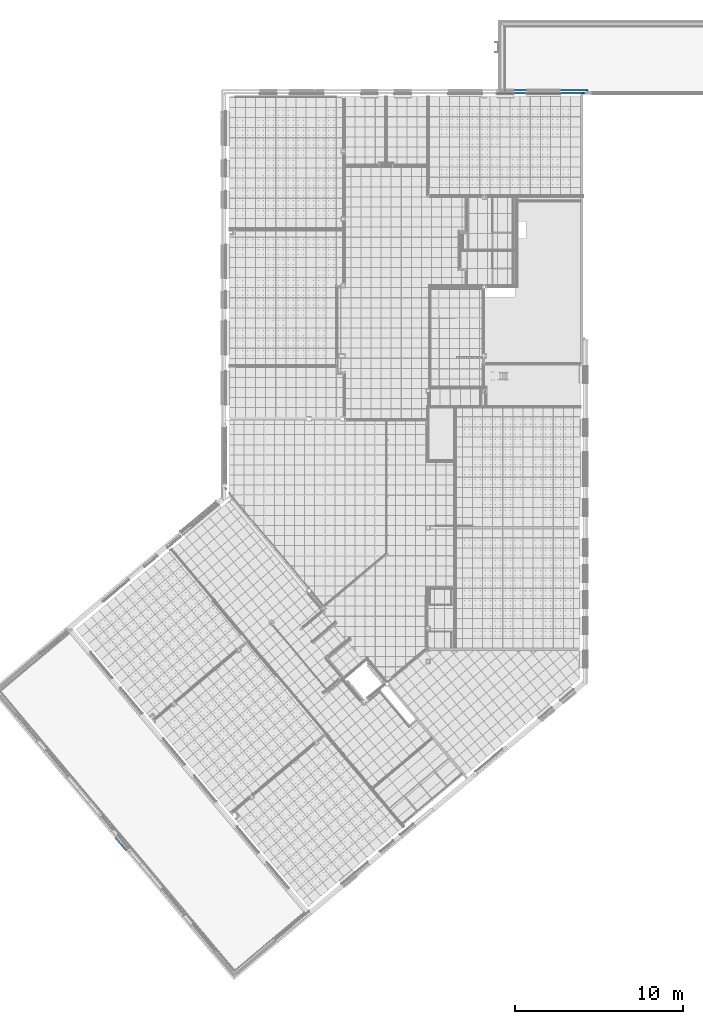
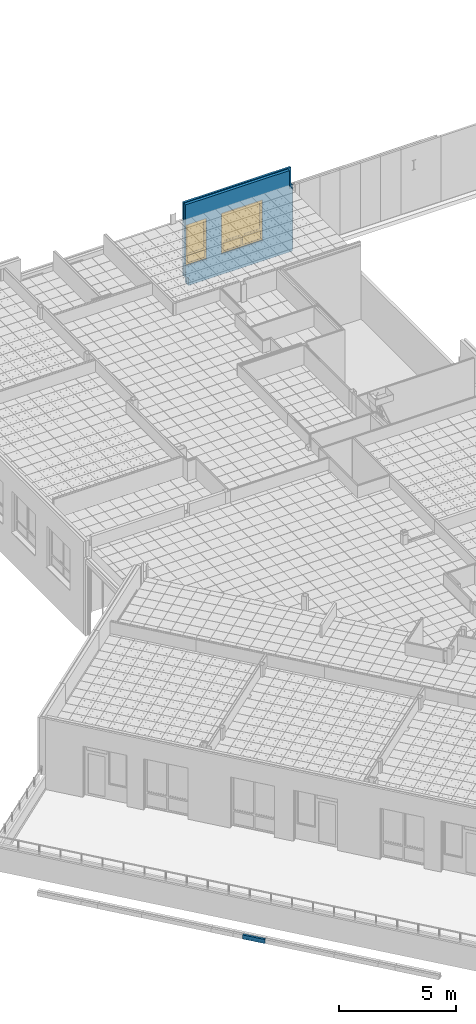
# One storey, part 47 of 321: 4 building element parts, 2 windows, 2 openings, 2 elements without a shape of their own.
"""IFC2X3 building model written with IfcOpenShell, lengths in millimetres."""

import ifcopenshell
import ifcopenshell.guid

model = None  # the IFC model being written
_history = None  # IfcOwnerHistory: only IFC2X3 demands one
_inside = {}  # id of a spatial element -> (the spatial element, [elements in it])
_under = {}  # id of a project, library or spatial element -> (it, [spatial elements below it])
_declared = {}  # id of a project -> (the project, [libraries it declares])
_typed = {}  # id of a type object -> (the type object, [elements of that type])
_made_of = {}  # id of a material, layer set ... -> (it, [elements and type objects made of it])


def new_model(schema):
    """Start an empty IFC model of exactly this schema.

    Asked for "IFC4X3", IfcOpenShell would pick the latest addendum, in which some entities
    have other attributes; the version numbers below select the first issue.
    IFC2X3 requires an IfcOwnerHistory on every rooted entity: one is made here for all.
    """
    global model, _history
    if schema == "IFC4X3":
        model = ifcopenshell.file(schema_version=(4, 3, 0, 0))
    else:
        model = ifcopenshell.file(schema=schema)
    _inside.clear()
    _under.clear()
    _declared.clear()
    _typed.clear()
    _made_of.clear()
    _history = None
    if model.schema == "IFC2X3":
        org = make("IfcOrganization", Name="unknown")
        user = make(
            "IfcPersonAndOrganization",
            ThePerson=make("IfcPerson", FamilyName="unknown"),
            TheOrganization=org,
        )
        app = make(
            "IfcApplication",
            ApplicationDeveloper=org,
            Version="unknown",
            ApplicationFullName="unknown",
            ApplicationIdentifier="unknown",
        )
        _history = make(
            "IfcOwnerHistory",
            OwningUser=user,
            OwningApplication=app,
            ChangeAction="ADDED",
            CreationDate=0,
        )
    return model


def make(cls, **values):
    """One entity of the class cls with the attributes given. An attribute that is None is left unset."""
    return model.create_entity(
        cls, **{name: value for name, value in values.items() if value is not None}
    )


def entity(cls, *values):
    """Any entity or typed value of the class cls, its attributes in the order of the schema. None: left unset."""
    e = model.create_entity(cls)
    for i, value in enumerate(values):
        if value is not None:
            e[i] = value
    return e


def rooted(cls, **values):
    """An entity with a GlobalId (a new one), such as an element, a storey or a relation."""
    return make(cls, GlobalId=ifcopenshell.guid.new(), OwnerHistory=_history, **values)


def si_unit(unit_type, name, prefix=None):
    """IfcSIUnit, for example si_unit("LENGTHUNIT", "METRE", prefix="MILLI")."""
    return make("IfcSIUnit", UnitType=unit_type, Prefix=prefix, Name=name)


def converted_unit(unit_type, name, factor, base, dimensions=None, offset=None):
    """IfcConversionBasedUnit, such as the inch: factor (a typed value) times the base unit."""
    return make(
        "IfcConversionBasedUnit"
        if offset is None
        else "IfcConversionBasedUnitWithOffset",
        ConversionOffset=offset,
        Dimensions=None
        if dimensions is None
        else entity("IfcDimensionalExponents", *dimensions),
        UnitType=unit_type,
        Name=name,
        ConversionFactor=make(
            "IfcMeasureWithUnit", ValueComponent=factor, UnitComponent=base
        ),
    )


def derived_unit(unit_type, elements):
    """IfcDerivedUnit: a product of units, each with its exponent."""
    return make(
        "IfcDerivedUnit",
        Elements=[
            make("IfcDerivedUnitElement", Unit=unit, Exponent=power)
            for unit, power in elements
        ],
        UnitType=unit_type,
    )


def money_unit(currency):
    """IfcMonetaryUnit."""
    return make("IfcMonetaryUnit", Currency=currency)


def assignment(units):
    """IfcUnitAssignment: the units of a project."""
    return None if units is None else make("IfcUnitAssignment", Units=units)


def point(xyz):
    """IfcCartesianPoint."""
    return None if xyz is None else make("IfcCartesianPoint", Coordinates=xyz)


def direction(xyz):
    """IfcDirection."""
    return None if xyz is None else make("IfcDirection", DirectionRatios=xyz)


def frame(location, z_axis=None, x_axis=None):
    """IfcAxis2Placement3D, a coordinate frame: its origin and axes. An axis left out is left unset."""
    return make(
        "IfcAxis2Placement3D",
        Location=point(location),
        Axis=direction(z_axis),
        RefDirection=direction(x_axis),
    )


def origin_with_axes():
    """The frame at (0, 0, 0) with the z axis (0, 0, 1) and the x axis (1, 0, 0) written out."""
    return frame((0.0, 0.0, 0.0), z_axis=(0.0, 0.0, 1.0), x_axis=(1.0, 0.0, 0.0))


def place(relative_to, where):
    """IfcLocalPlacement: puts the frame where relative to a parent placement (None: the world)."""
    return make(
        "IfcLocalPlacement", PlacementRelTo=relative_to, RelativePlacement=where
    )


def context(
    kind, dimensions, precision=None, world=None, true_north=None, identifier=None
):
    """IfcGeometricRepresentationContext, for example the 3D "Model" context."""
    return make(
        "IfcGeometricRepresentationContext",
        ContextIdentifier=identifier,
        ContextType=kind,
        CoordinateSpaceDimension=dimensions,
        Precision=precision,
        WorldCoordinateSystem=world,
        TrueNorth=true_north,
    )


def subcontext(parent, identifier, kind, view, scale=None):
    """IfcGeometricRepresentationSubContext, for example "Body" below "Model"."""
    return make(
        "IfcGeometricRepresentationSubContext",
        ContextIdentifier=identifier,
        ContextType=kind,
        ParentContext=parent,
        TargetScale=scale,
        TargetView=view,
    )


def project(units=None, contexts=None):
    """IfcProject with its units and contexts."""
    return rooted(
        "IfcProject",
        Name="project",
        RepresentationContexts=contexts,
        UnitsInContext=assignment(units),
    )


def spatial(cls, under=None, at=None, **own):
    """A site, building, storey or space (cls), placed at a placement, below another one or the project."""
    s = rooted(cls, ObjectPlacement=at, **own)
    if under is not None:
        _under.setdefault(under.id(), (under, []))[1].append(s)
    return s


def faces_of(points, faces, orient=None, outer=None):
    """IfcFace entities. A face is a list of loops; a loop is a list of indices into points, from 0.

    orient and outer hold one flag for each loop. By default every Orientation is true, the
    first loop of a face is its IfcFaceOuterBound and the others are IfcFaceBound.
    """
    made = []
    for i, loops in enumerate(faces):
        bounds = []
        for j, loop in enumerate(loops):
            is_outer = j == 0 if outer is None else outer[i][j]
            bounds.append(
                make(
                    "IfcFaceOuterBound" if is_outer else "IfcFaceBound",
                    Bound=make("IfcPolyLoop", Polygon=[points[k] for k in loop]),
                    Orientation=True if orient is None else orient[i][j],
                )
            )
        made.append(make("IfcFace", Bounds=bounds))
    return made


def open_shell(faces, orient=None, outer=None):
    """The faces of one IfcOpenShell. surface_model builds it on its shared points."""
    return ("IfcOpenShell", faces, orient, outer)


def faceted_brep(points, faces, orient=None, outer=None, voids=None):
    """IfcFacetedBrep: a solid bounded by flat faces; with voids (closed shells), ...WithVoids."""
    shared = [point(p) for p in points]
    hull = make("IfcClosedShell", CfsFaces=faces_of(shared, faces, orient, outer))
    if voids is None:
        return make("IfcFacetedBrep", Outer=hull)
    return make(
        "IfcFacetedBrepWithVoids",
        Outer=hull,
        Voids=[
            make(cls, CfsFaces=faces_of(shared, fs, o, b)) for cls, fs, o, b in voids
        ],
    )


def surface_model(cls, points, shells):
    """IfcFaceBasedSurfaceModel or IfcShellBasedSurfaceModel (cls): surfaces that need not close."""
    shared = [point(p) for p in points]
    made = [make(c, CfsFaces=faces_of(shared, fs, o, b)) for c, fs, o, b in shells]
    if cls == "IfcFaceBasedSurfaceModel":
        return make(cls, FbsmFaces=made)
    return make(cls, SbsmBoundary=made)


def shape(context_of_items, identifier, shape_type, items):
    """IfcShapeRepresentation: the items that make up one representation, for example the "Body"."""
    return make(
        "IfcShapeRepresentation",
        ContextOfItems=context_of_items,
        RepresentationIdentifier=identifier,
        RepresentationType=shape_type,
        Items=items,
    )


def source(mapping_origin, context_of_items, identifier, shape_type, items):
    """IfcRepresentationMap: a shape defined once, which mapped items show again and again."""
    return make(
        "IfcRepresentationMap",
        MappingOrigin=mapping_origin,
        MappedRepresentation=shape(context_of_items, identifier, shape_type, items),
    )


def transform(
    local_origin,
    x_axis=None,
    y_axis=None,
    z_axis=None,
    scale=None,
    scale2=None,
    scale3=None,
    uniform=True,
):
    """IfcCartesianTransformationOperator3D, or its non-uniform kind. x_axis, y_axis, z_axis: its Axis1, 2, 3."""
    if uniform:
        return make(
            "IfcCartesianTransformationOperator3D",
            Axis1=direction(x_axis),
            Axis2=direction(y_axis),
            LocalOrigin=point(local_origin),
            Scale=scale,
            Axis3=direction(z_axis),
        )
    return make(
        "IfcCartesianTransformationOperator3DnonUniform",
        Axis1=direction(x_axis),
        Axis2=direction(y_axis),
        LocalOrigin=point(local_origin),
        Scale=scale,
        Axis3=direction(z_axis),
        Scale2=scale2,
        Scale3=scale3,
    )


def mapped(mapping_source, mapping_target):
    """IfcMappedItem: shows the shape of a source again, moved by a transform."""
    return make(
        "IfcMappedItem", MappingSource=mapping_source, MappingTarget=mapping_target
    )


def material(Name=None, Category=None):
    """IfcMaterial."""
    return make("IfcMaterial", Name=Name, Category=Category)


def made_of(thing, what):
    """Note that an element or type object is made of a material, layer set ...; save() writes the relation."""
    if what is not None:
        _made_of.setdefault(what.id(), (what, []))[1].append(thing)
    return thing


def type_object(cls, material=None, **own):
    """A type object (cls), such as IfcWallType, which elements share."""
    return made_of(rooted(cls, **own), material)


def type_shapes(of_type, sources):
    """Give a type object the sources (RepresentationMaps) that its elements show as mapped items."""
    of_type.RepresentationMaps = sources


def element(
    cls,
    number,
    at=None,
    inside=None,
    cuts=None,
    type_object=None,
    material=None,
    context=None,
    identifier="Body",
    shape_type=None,
    held_by="IfcProductDefinitionShape",
    body=None,
    shapes=None,
    **own,
):
    """One element of the class cls, such as IfcWall. Its Tag is "e" and its number.

    at: its placement. inside: the storey or other place that contains it. cuts: it is an
    opening in that element (IfcRelVoidsElement). A single representation is given by context,
    identifier, shape_type and body (its items); several are given by shapes. held_by: the class
    of the entity that holds the representations. save() writes the other relations.
    """
    e = rooted(cls, Tag="e%d" % number, ObjectPlacement=at, **own)
    if body is not None:
        shapes = [shape(context, identifier, shape_type, body)]
    if shapes is not None:
        e.Representation = make(held_by, Representations=shapes)
    if inside is not None:
        _inside.setdefault(inside.id(), (inside, []))[1].append(e)
    if cuts is not None:
        rooted(
            "IfcRelVoidsElement", RelatingBuildingElement=cuts, RelatedOpeningElement=e
        )
    if type_object is not None:
        _typed.setdefault(type_object.id(), (type_object, []))[1].append(e)
    return made_of(e, material)


def fill(opening, filler):
    """IfcRelFillsElement: the door or window that sits in an opening."""
    return rooted(
        "IfcRelFillsElement",
        RelatingOpeningElement=opening,
        RelatedBuildingElement=filler,
    )


def aggregate(whole, parts):
    """IfcRelAggregates: a whole, such as a stair, and the parts it consists of."""
    return rooted("IfcRelAggregates", RelatingObject=whole, RelatedObjects=parts)


def save(model, path):
    """Write the relations noted so far, then the file.

    IfcRelAggregates (storeys below a building ...), IfcRelContainedInSpatialStructure (elements
    in a storey), IfcRelDefinesByType, IfcRelAssociatesMaterial and IfcRelDeclares: one each for
    every whole, place, type object, material and project.
    """
    for whole, parts in _under.values():
        aggregate(whole, parts)
    for where, things in _inside.values():
        rooted(
            "IfcRelContainedInSpatialStructure",
            RelatedElements=things,
            RelatingStructure=where,
        )
    for kind, things in _typed.values():
        rooted("IfcRelDefinesByType", RelatedObjects=things, RelatingType=kind)
    for what, things in _made_of.values():
        rooted("IfcRelAssociatesMaterial", RelatedObjects=things, RelatingMaterial=what)
    for by, libraries in _declared.values():
        rooted("IfcRelDeclares", RelatingContext=by, RelatedDefinitions=libraries)
    model.write(path)


model = new_model("IFC2X3")

# Units and contexts
model_context = context("Model", 3, precision=0.01, world=origin_with_axes(), true_north=direction((0.0, 1.0)))
plan_context = context("Plan", 3, precision=0.01, world=origin_with_axes(), true_north=direction((0.0, 1.0)))
body_context = subcontext(model_context, "Body", "Model", "MODEL_VIEW")
ifc_project = project(units=[si_unit("LENGTHUNIT", "METRE", prefix="MILLI"), si_unit("AREAUNIT", "SQUARE_METRE"), si_unit("VOLUMEUNIT", "CUBIC_METRE"), converted_unit("PLANEANGLEUNIT", "DEGREE", entity("IfcPlaneAngleMeasure", 0.0174532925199), si_unit("PLANEANGLEUNIT", "RADIAN"), dimensions=[0, 0, 0, 0, 0, 0, 0]), money_unit("EUR"), converted_unit("TIMEUNIT", "Year", entity("IfcTimeMeasure", 31556926.0), si_unit("TIMEUNIT", "SECOND"), dimensions=[0, 0, 1, 0, 0, 0, 0]), si_unit("MASSUNIT", "GRAM", prefix="KILO"), si_unit("THERMODYNAMICTEMPERATUREUNIT", "DEGREE_CELSIUS"), si_unit("LUMINOUSINTENSITYUNIT", "LUMEN"), si_unit("ENERGYUNIT", "JOULE", prefix="MEGA"), derived_unit("THERMALCONDUCTANCEUNIT", [(si_unit("POWERUNIT", "WATT"), 1), (si_unit("LENGTHUNIT", "METRE"), -1), (si_unit("THERMODYNAMICTEMPERATUREUNIT", "KELVIN"), -1)]), derived_unit("SPECIFICHEATCAPACITYUNIT", [(si_unit("ENERGYUNIT", "JOULE"), 1), (si_unit("MASSUNIT", "GRAM", prefix="KILO"), -1), (si_unit("THERMODYNAMICTEMPERATUREUNIT", "KELVIN"), -1)]), derived_unit("MASSDENSITYUNIT", [(si_unit("MASSUNIT", "GRAM", prefix="KILO"), 1), (si_unit("VOLUMEUNIT", "CUBIC_METRE"), -1)])], contexts=[model_context, plan_context])

# Site, building, storey
site_placement = place(None, origin_with_axes())
site = spatial("IfcSite", under=ifc_project, at=site_placement, Name="Fortuinstraat Woensdrecht", CompositionType="ELEMENT")
building_placement = place(site_placement, origin_with_axes())
building = spatial("IfcBuilding", under=site, at=building_placement, Name="IKC Fortuna", CompositionType="ELEMENT")
storey_placement = place(building_placement, frame((0.0, 0.0, 4000.0), z_axis=(0.0, 0.0, 1.0), x_axis=(1.0, 0.0, 0.0)))
storey = spatial("IfcBuildingStorey", under=building, at=storey_placement, Name="01 eerste verdieping", CompositionType="ELEMENT", Elevation=4000.0)

# Window
window_style_1 = type_object("IfcWindowStyle", Name="R1 25", ConstructionType="NOTDEFINED", OperationType="DOUBLE_PANEL_HORIZONTAL", ParameterTakesPrecedence=False, Sizeable=False)
shared_shape_1 = source(origin_with_axes(), body_context, "Body", "SurfaceModel", [
    faceted_brep([(457.0, 0.0, 2016.50001132), (457.0, -36.0, 2016.50001132), (429.0, -36.0, 2016.50001132), (429.0, -62.0, 2016.50001132), (497.0, -62.0, 2016.50001132), (497.0, 0.0, 2016.50001132), (457.0, 0.0, 506.0), (457.0, -36.0, 506.0), (429.0, -36.0, 534.0), (429.0, -36.0, 506.0), (429.0, -62.0, 534.0), (429.0, -62.0, 466.0), (429.0, -62.0, 68.0), (497.0, -62.0, 68.0), (497.0, 0.0, 68.0), (429.0, 0.0, 68.0), (429.0, 0.0, 466.0), (429.0, 0.0, 506.0)], [[[0, 1, 2, 3, 4, 5]], [[1, 0, 6, 7]], [[8, 2, 1, 7, 9]], [[2, 8, 10, 3]], [[10, 11, 12, 13, 4, 3]], [[5, 4, 13, 14]], [[6, 0, 5, 14, 15, 16, 17]], [[6, 17, 9, 7]], [[9, 17, 16, 11, 10, 8]], [[15, 12, 11, 16]], [[14, 13, 12, 15]]]),
    faceted_brep([(-429.0, -36.0, 2016.50001132), (-457.0, -36.0, 2016.50001132), (-457.0, 0.0, 2016.50001132), (-497.0, 0.0, 2016.50001132), (-497.0, -62.0, 2016.50001132), (-429.0, -62.0, 2016.50001132), (-429.0, -36.0, 534.0), (-429.0, -36.0, 506.0), (-457.0, -36.0, 506.0), (-457.0, 0.0, 506.0), (-429.0, 0.0, 506.0), (-429.0, 0.0, 466.0), (-429.0, 0.0, 68.0), (-497.0, 0.0, 68.0), (-497.0, -62.0, 68.0), (-429.0, -62.0, 68.0), (-429.0, -62.0, 466.0), (-429.0, -62.0, 534.0)], [[[0, 1, 2, 3, 4, 5]], [[1, 0, 6, 7, 8]], [[9, 2, 1, 8]], [[9, 10, 11, 12, 13, 3, 2]], [[13, 14, 4, 3]], [[14, 15, 16, 17, 5, 4]], [[6, 0, 5, 17]], [[7, 6, 17, 16, 11, 10]], [[10, 9, 8, 7]], [[11, 16, 15, 12]], [[12, 15, 14, 13]]]),
    faceted_brep([(429.0, -36.0, 534.0), (-429.0, -36.0, 534.0), (-429.0, -62.0, 534.0), (429.0, -62.0, 534.0), (-429.0, -36.0, 506.0), (429.0, -36.0, 506.0), (-429.0, 0.0, 506.0), (-429.0, 0.0, 466.0), (-429.0, -62.0, 466.0), (429.0, -62.0, 466.0), (429.0, 0.0, 466.0), (429.0, 0.0, 506.0)], [[[0, 1, 2, 3]], [[4, 1, 0, 5]], [[4, 6, 7, 8, 2, 1]], [[8, 9, 3, 2]], [[5, 0, 3, 9, 10, 11]], [[11, 6, 4, 5]], [[6, 11, 10, 7]], [[10, 9, 8, 7]]]),
    faceted_brep([(457.0, 0.0, 2016.50001132), (457.0, 0.0, 2044.50001132), (-457.0, 0.0, 2044.50001132), (-457.0, 0.0, 2016.50001132), (-497.0, 0.0, 2016.50001132), (-497.0, 0.0, 2084.50001132), (497.0, 0.0, 2084.50001132), (497.0, 0.0, 2016.50001132), (457.0, -36.0, 2016.50001132), (457.0, -36.0, 2044.50001132), (-457.0, -36.0, 2044.50001132), (-457.0, -36.0, 2016.50001132), (-429.0, -36.0, 2016.50001132), (-429.0, -62.0, 2016.50001132), (-497.0, -62.0, 2016.50001132), (-497.0, -62.0, 2084.50001132), (497.0, -62.0, 2084.50001132), (497.0, -62.0, 2016.50001132), (429.0, -62.0, 2016.50001132), (429.0, -36.0, 2016.50001132)], [[[0, 1, 2, 3, 4, 5, 6, 7]], [[1, 0, 8, 9]], [[2, 1, 9, 10]], [[3, 2, 10, 11]], [[11, 12, 13, 14, 4, 3]], [[4, 14, 15, 5]], [[5, 15, 16, 6]], [[6, 16, 17, 7]], [[8, 0, 7, 17, 18, 19]], [[12, 11, 10, 9, 8, 19]], [[12, 19, 18, 13]], [[14, 13, 18, 17, 16, 15]]]),
    faceted_brep([(429.0, -62.0, 68.0), (497.0, -62.0, 68.0), (497.0, 0.0, 68.0), (429.0, 0.0, 68.0), (-429.0, -62.0, 68.0), (-497.0, -62.0, 68.0), (-497.0, -62.0, 0.0), (497.0, -62.0, 0.0), (497.0, 0.0, 0.0), (-497.0, 0.0, 0.0), (-497.0, 0.0, 68.0), (-429.0, 0.0, 68.0)], [[[0, 1, 2, 3]], [[0, 4, 5, 6, 7, 1]], [[1, 7, 8, 2]], [[3, 2, 8, 9, 10, 11]], [[4, 0, 3, 11]], [[5, 4, 11, 10]], [[6, 5, 10, 9]], [[7, 6, 9, 8]]]),
    faceted_brep([(389.0, -36.0, 1976.50001132), (457.0, -36.0, 1976.50001132), (457.0, 8.0, 1976.50001132), (389.0, 8.0, 1976.50001132), (389.0, -36.0, 574.0), (457.0, -36.0, 574.0), (457.0, 8.0, 574.0), (389.0, 8.0, 574.0)], [[[0, 1, 2, 3]], [[0, 4, 5, 1]], [[1, 5, 6, 2]], [[3, 2, 6, 7]], [[4, 0, 3, 7]], [[5, 4, 7, 6]]]),
    faceted_brep([(-389.0, -36.0, 574.0), (-457.0, -36.0, 574.0), (-457.0, 8.0, 574.0), (-389.0, 8.0, 574.0), (-389.0, -36.0, 1976.50001132), (-457.0, -36.0, 1976.50001132), (-457.0, 8.0, 1976.50001132), (-389.0, 8.0, 1976.50001132)], [[[0, 1, 2, 3]], [[0, 4, 5, 1]], [[1, 5, 6, 2]], [[3, 2, 6, 7]], [[4, 0, 3, 7]], [[5, 4, 7, 6]]]),
    faceted_brep([(-457.0, -36.0, 506.0), (-457.0, -36.0, 574.0), (-457.0, 8.0, 574.0), (-457.0, 8.0, 506.0), (457.0, -36.0, 506.0), (457.0, -36.0, 574.0), (389.0, -36.0, 574.0), (-389.0, -36.0, 574.0), (-389.0, 8.0, 574.0), (389.0, 8.0, 574.0), (457.0, 8.0, 574.0), (457.0, 8.0, 506.0)], [[[0, 1, 2, 3]], [[0, 4, 5, 6, 7, 1]], [[1, 7, 8, 2]], [[3, 2, 8, 9, 10, 11]], [[4, 0, 3, 11]], [[5, 4, 11, 10]], [[6, 5, 10, 9]], [[7, 6, 9, 8]]]),
    faceted_brep([(457.0, -36.0, 2044.50001132), (457.0, -36.0, 1976.50001132), (457.0, 8.0, 1976.50001132), (457.0, 8.0, 2044.50001132), (-457.0, -36.0, 2044.50001132), (-457.0, -36.0, 1976.50001132), (-389.0, -36.0, 1976.50001132), (389.0, -36.0, 1976.50001132), (389.0, 8.0, 1976.50001132), (-389.0, 8.0, 1976.50001132), (-457.0, 8.0, 1976.50001132), (-457.0, 8.0, 2044.50001132)], [[[0, 1, 2, 3]], [[0, 4, 5, 6, 7, 1]], [[1, 7, 8, 2]], [[3, 2, 8, 9, 10, 11]], [[4, 0, 3, 11]], [[5, 4, 11, 10]], [[6, 5, 10, 9]], [[7, 6, 9, 8]]]),
    surface_model("IfcShellBasedSurfaceModel", [(389.0, -24.0, 574.0), (389.0, -24.0, 1976.50001132), (-389.0, -24.0, 1976.50001132), (-389.0, -24.0, 574.0)], [open_shell([[[0, 1, 2, 3]]])]),
    surface_model("IfcShellBasedSurfaceModel", [(389.0, -4.0, 574.0), (-389.0, -4.0, 574.0), (-389.0, -4.0, 1976.50001132), (389.0, -4.0, 1976.50001132)], [open_shell([[[0, 1, 2, 3]]])]),
    surface_model("IfcShellBasedSurfaceModel", [(429.0, -46.0, 68.0), (429.0, -46.0, 466.0), (-429.0, -46.0, 466.0), (-429.0, -46.0, 68.0)], [open_shell([[[0, 1, 2, 3]]])]),
    surface_model("IfcShellBasedSurfaceModel", [(429.0, -26.0, 68.0), (-429.0, -26.0, 68.0), (-429.0, -26.0, 466.0), (429.0, -26.0, 466.0)], [open_shell([[[0, 1, 2, 3]]])]),
])
type_shapes(window_style_1, [shared_shape_1])
wall_placement = place(storey_placement, frame((29695.8877873, 35496.2966283, -427.5), z_axis=(0.0, 0.0, 1.0), x_axis=(1.0, 0.0, 0.0)))
opening_1_placement = place(wall_placement, frame((514.534138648, 0.0, 1115.49998868), z_axis=(0.0, 0.0, 1.0), x_axis=(1.0, 0.0, 0.0)))
window_1_placement = place(opening_1_placement, frame((497.0, 0.0, 0.0), z_axis=(0.0, 0.0, 1.0), x_axis=(-1.0, 0.0, 0.0)))
window_1 = element("IfcWindow", 1, at=window_1_placement, inside=storey, type_object=window_style_1, Name="31_Raam_A.11", ObjectType="WINDOW", OverallHeight=2084.5, OverallWidth=994.0, context=body_context, shape_type="MappedRepresentation", body=[
    mapped(shared_shape_1, transform((497.0, -10.0, 0.0))),
])

window_style_2 = type_object("IfcWindowStyle", Name="R2 bl ol 25", ConstructionType="NOTDEFINED", OperationType="USERDEFINED", ParameterTakesPrecedence=False, Sizeable=False)
shared_shape_2 = source(origin_with_axes(), body_context, "Body", "SurfaceModel", [
    faceted_brep([(957.0, 0.0, 2016.5), (957.0, -36.0, 2016.5), (929.0, -36.0, 2016.5), (929.0, -62.0, 2016.5), (997.0, -62.0, 2016.5), (997.0, 0.0, 2016.5), (957.0, 0.0, 556.0), (957.0, -36.0, 556.0), (929.0, -36.0, 584.0), (929.0, -36.0, 556.0), (929.0, -62.0, 584.0), (929.0, -62.0, 516.0), (929.0, -62.0, 68.0), (997.0, -62.0, 68.0), (997.0, 0.0, 68.0), (929.0, 0.0, 68.0), (929.0, 0.0, 516.0), (929.0, 0.0, 556.0)], [[[0, 1, 2, 3, 4, 5]], [[1, 0, 6, 7]], [[8, 2, 1, 7, 9]], [[2, 8, 10, 3]], [[10, 11, 12, 13, 4, 3]], [[5, 4, 13, 14]], [[6, 0, 5, 14, 15, 16, 17]], [[6, 17, 9, 7]], [[9, 17, 16, 11, 10, 8]], [[15, 12, 11, 16]], [[14, 13, 12, 15]]]),
    faceted_brep([(-929.0, -36.0, 2016.5), (-957.0, -36.0, 2016.5), (-957.0, 0.0, 2016.5), (-997.0, 0.0, 2016.5), (-997.0, -62.0, 2016.5), (-929.0, -62.0, 2016.5), (-929.0, -36.0, 584.0), (-929.0, -36.0, 556.0), (-957.0, -36.0, 556.0), (-957.0, 0.0, 556.0), (-929.0, 0.0, 556.0), (-929.0, 0.0, 516.0), (-929.0, 0.0, 68.0), (-997.0, 0.0, 68.0), (-997.0, -62.0, 68.0), (-929.0, -62.0, 68.0), (-929.0, -62.0, 516.0), (-929.0, -62.0, 584.0)], [[[0, 1, 2, 3, 4, 5]], [[1, 0, 6, 7, 8]], [[9, 2, 1, 8]], [[9, 10, 11, 12, 13, 3, 2]], [[13, 14, 4, 3]], [[14, 15, 16, 17, 5, 4]], [[6, 0, 5, 17]], [[7, 6, 17, 16, 11, 10]], [[10, 9, 8, 7]], [[11, 16, 15, 12]], [[12, 15, 14, 13]]]),
    faceted_brep([(34.0, -36.0, 2016.5), (6.0, -36.0, 2016.5), (6.0, 0.0, 2016.5), (-6.0, 0.0, 2016.5), (-6.0, -36.0, 2016.5), (-34.0, -36.0, 2016.5), (-34.0, -62.0, 2016.5), (34.0, -62.0, 2016.5), (34.0, -36.0, 584.0), (34.0, -36.0, 556.0), (6.0, -36.0, 556.0), (6.0, 0.0, 556.0), (34.0, 0.0, 556.0), (34.0, 0.0, 516.0), (34.0, 0.0, 68.0), (-34.0, 0.0, 68.0), (-34.0, 0.0, 516.0), (-34.0, 0.0, 556.0), (-6.0, 0.0, 556.0), (-6.0, -36.0, 556.0), (-34.0, -36.0, 584.0), (-34.0, -36.0, 556.0), (-34.0, -62.0, 584.0), (34.0, -62.0, 516.0), (34.0, -62.0, 584.0), (-34.0, -62.0, 516.0), (-34.0, -62.0, 68.0), (34.0, -62.0, 68.0)], [[[0, 1, 2, 3, 4, 5, 6, 7]], [[1, 0, 8, 9, 10]], [[11, 2, 1, 10]], [[11, 12, 13, 14, 15, 16, 17, 18, 3, 2]], [[4, 3, 18, 19]], [[20, 5, 4, 19, 21]], [[5, 20, 22, 6]], [[23, 24, 7, 6, 22, 25, 26, 27]], [[8, 0, 7, 24]], [[9, 8, 24, 23, 13, 12]], [[12, 11, 10, 9]], [[13, 23, 27, 14]], [[14, 27, 26, 15]], [[15, 26, 25, 16]], [[21, 17, 16, 25, 22, 20]], [[18, 17, 21, 19]]]),
    faceted_brep([(-34.0, -36.0, 584.0), (-929.0, -36.0, 584.0), (-929.0, -62.0, 584.0), (-34.0, -62.0, 584.0), (-929.0, -36.0, 556.0), (-34.0, -36.0, 556.0), (-929.0, 0.0, 556.0), (-929.0, 0.0, 516.0), (-929.0, -62.0, 516.0), (-34.0, -62.0, 516.0), (-34.0, 0.0, 516.0), (-34.0, 0.0, 556.0)], [[[0, 1, 2, 3]], [[4, 1, 0, 5]], [[4, 6, 7, 8, 2, 1]], [[9, 3, 2, 8]], [[5, 0, 3, 9, 10, 11]], [[11, 6, 4, 5]], [[6, 11, 10, 7]], [[10, 9, 8, 7]]]),
    faceted_brep([(929.0, -36.0, 584.0), (34.0, -36.0, 584.0), (34.0, -62.0, 584.0), (929.0, -62.0, 584.0), (34.0, -36.0, 556.0), (929.0, -36.0, 556.0), (34.0, 0.0, 556.0), (34.0, 0.0, 516.0), (34.0, -62.0, 516.0), (929.0, -62.0, 516.0), (929.0, 0.0, 516.0), (929.0, 0.0, 556.0)], [[[0, 1, 2, 3]], [[4, 1, 0, 5]], [[4, 6, 7, 8, 2, 1]], [[2, 8, 9, 3]], [[5, 0, 3, 9, 10, 11]], [[11, 6, 4, 5]], [[6, 11, 10, 7]], [[10, 9, 8, 7]]]),
    faceted_brep([(957.0, 0.0, 2016.5), (957.0, 0.0, 2044.5), (6.0, 0.0, 2044.5), (6.0, 0.0, 2016.5), (-6.0, 0.0, 2016.5), (-6.0, 0.0, 2044.5), (-957.0, 0.0, 2044.5), (-957.0, 0.0, 2016.5), (-997.0, 0.0, 2016.5), (-997.0, 0.0, 2084.5), (997.0, 0.0, 2084.5), (997.0, 0.0, 2016.5), (957.0, -36.0, 2016.5), (957.0, -36.0, 2044.5), (6.0, -36.0, 2044.5), (6.0, -36.0, 2016.5), (34.0, -36.0, 2016.5), (34.0, -62.0, 2016.5), (-34.0, -62.0, 2016.5), (-34.0, -36.0, 2016.5), (-6.0, -36.0, 2016.5), (-6.0, -36.0, 2044.5), (-957.0, -36.0, 2044.5), (-957.0, -36.0, 2016.5), (-929.0, -36.0, 2016.5), (-929.0, -62.0, 2016.5), (-997.0, -62.0, 2016.5), (-997.0, -62.0, 2084.5), (997.0, -62.0, 2084.5), (997.0, -62.0, 2016.5), (929.0, -62.0, 2016.5), (929.0, -36.0, 2016.5)], [[[0, 1, 2, 3, 4, 5, 6, 7, 8, 9, 10, 11]], [[1, 0, 12, 13]], [[2, 1, 13, 14]], [[3, 2, 14, 15]], [[15, 16, 17, 18, 19, 20, 4, 3]], [[5, 4, 20, 21]], [[6, 5, 21, 22]], [[7, 6, 22, 23]], [[23, 24, 25, 26, 8, 7]], [[8, 26, 27, 9]], [[9, 27, 28, 10]], [[10, 28, 29, 11]], [[12, 0, 11, 29, 30, 31]], [[16, 15, 14, 13, 12, 31]], [[16, 31, 30, 17]], [[18, 17, 30, 29, 28, 27, 26, 25]], [[24, 19, 18, 25]], [[24, 23, 22, 21, 20, 19]]]),
    faceted_brep([(929.0, -62.0, 68.0), (997.0, -62.0, 68.0), (997.0, 0.0, 68.0), (929.0, 0.0, 68.0), (34.0, -62.0, 68.0), (-34.0, -62.0, 68.0), (-929.0, -62.0, 68.0), (-997.0, -62.0, 68.0), (-997.0, -62.0, 0.0), (997.0, -62.0, 0.0), (997.0, 0.0, 0.0), (-997.0, 0.0, 0.0), (-997.0, 0.0, 68.0), (-929.0, 0.0, 68.0), (-34.0, 0.0, 68.0), (34.0, 0.0, 68.0)], [[[0, 1, 2, 3]], [[0, 4, 5, 6, 7, 8, 9, 1]], [[1, 9, 10, 2]], [[3, 2, 10, 11, 12, 13, 14, 15]], [[4, 0, 3, 15]], [[5, 4, 15, 14]], [[6, 5, 14, 13]], [[7, 6, 13, 12]], [[8, 7, 12, 11]], [[9, 8, 11, 10]]]),
    faceted_brep([(889.0, -36.0, 1976.5), (957.0, -36.0, 1976.5), (957.0, 8.0, 1976.5), (889.0, 8.0, 1976.5), (889.0, -36.0, 624.0), (957.0, -36.0, 624.0), (957.0, 8.0, 624.0), (889.0, 8.0, 624.0)], [[[0, 1, 2, 3]], [[0, 4, 5, 1]], [[1, 5, 6, 2]], [[3, 2, 6, 7]], [[4, 0, 3, 7]], [[5, 4, 7, 6]]]),
    faceted_brep([(74.0, -36.0, 624.0), (6.0, -36.0, 624.0), (6.0, 8.0, 624.0), (74.0, 8.0, 624.0), (74.0, -36.0, 1976.5), (6.0, -36.0, 1976.5), (6.0, 8.0, 1976.5), (74.0, 8.0, 1976.5)], [[[0, 1, 2, 3]], [[0, 4, 5, 1]], [[1, 5, 6, 2]], [[3, 2, 6, 7]], [[4, 0, 3, 7]], [[5, 4, 7, 6]]]),
    faceted_brep([(6.0, -36.0, 556.0), (6.0, -36.0, 624.0), (6.0, 8.0, 624.0), (6.0, 8.0, 556.0), (957.0, -36.0, 556.0), (957.0, -36.0, 624.0), (889.0, -36.0, 624.0), (74.0, -36.0, 624.0), (74.0, 8.0, 624.0), (889.0, 8.0, 624.0), (957.0, 8.0, 624.0), (957.0, 8.0, 556.0)], [[[0, 1, 2, 3]], [[0, 4, 5, 6, 7, 1]], [[1, 7, 8, 2]], [[3, 2, 8, 9, 10, 11]], [[4, 0, 3, 11]], [[5, 4, 11, 10]], [[6, 5, 10, 9]], [[7, 6, 9, 8]]]),
    faceted_brep([(957.0, -36.0, 2044.5), (957.0, -36.0, 1976.5), (957.0, 8.0, 1976.5), (957.0, 8.0, 2044.5), (6.0, -36.0, 2044.5), (6.0, -36.0, 1976.5), (74.0, -36.0, 1976.5), (889.0, -36.0, 1976.5), (889.0, 8.0, 1976.5), (74.0, 8.0, 1976.5), (6.0, 8.0, 1976.5), (6.0, 8.0, 2044.5)], [[[0, 1, 2, 3]], [[0, 4, 5, 6, 7, 1]], [[1, 7, 8, 2]], [[3, 2, 8, 9, 10, 11]], [[4, 0, 3, 11]], [[5, 4, 11, 10]], [[6, 5, 10, 9]], [[7, 6, 9, 8]]]),
    surface_model("IfcShellBasedSurfaceModel", [(889.0, -24.0, 624.0), (889.0, -24.0, 1976.5), (74.0, -24.0, 1976.5), (74.0, -24.0, 624.0)], [open_shell([[[0, 1, 2, 3]]])]),
    surface_model("IfcShellBasedSurfaceModel", [(889.0, -4.0, 624.0), (74.0, -4.0, 624.0), (74.0, -4.0, 1976.5), (889.0, -4.0, 1976.5)], [open_shell([[[0, 1, 2, 3]]])]),
    faceted_brep([(-74.0, -36.0, 1976.5), (-6.0, -36.0, 1976.5), (-6.0, 8.0, 1976.5), (-74.0, 8.0, 1976.5), (-74.0, -36.0, 624.0), (-6.0, -36.0, 624.0), (-6.0, 8.0, 624.0), (-74.0, 8.0, 624.0)], [[[0, 1, 2, 3]], [[0, 4, 5, 1]], [[1, 5, 6, 2]], [[3, 2, 6, 7]], [[4, 0, 3, 7]], [[5, 4, 7, 6]]]),
    faceted_brep([(-889.0, -36.0, 624.0), (-957.0, -36.0, 624.0), (-957.0, 8.0, 624.0), (-889.0, 8.0, 624.0), (-889.0, -36.0, 1976.5), (-957.0, -36.0, 1976.5), (-957.0, 8.0, 1976.5), (-889.0, 8.0, 1976.5)], [[[0, 1, 2, 3]], [[0, 4, 5, 1]], [[1, 5, 6, 2]], [[3, 2, 6, 7]], [[4, 0, 3, 7]], [[5, 4, 7, 6]]]),
    faceted_brep([(-957.0, -36.0, 556.0), (-957.0, -36.0, 624.0), (-957.0, 8.0, 624.0), (-957.0, 8.0, 556.0), (-6.0, -36.0, 556.0), (-6.0, -36.0, 624.0), (-74.0, -36.0, 624.0), (-889.0, -36.0, 624.0), (-889.0, 8.0, 624.0), (-74.0, 8.0, 624.0), (-6.0, 8.0, 624.0), (-6.0, 8.0, 556.0)], [[[0, 1, 2, 3]], [[0, 4, 5, 6, 7, 1]], [[1, 7, 8, 2]], [[3, 2, 8, 9, 10, 11]], [[4, 0, 3, 11]], [[5, 4, 11, 10]], [[6, 5, 10, 9]], [[7, 6, 9, 8]]]),
    faceted_brep([(-6.0, -36.0, 2044.5), (-6.0, -36.0, 1976.5), (-6.0, 8.0, 1976.5), (-6.0, 8.0, 2044.5), (-957.0, -36.0, 2044.5), (-957.0, -36.0, 1976.5), (-889.0, -36.0, 1976.5), (-74.0, -36.0, 1976.5), (-74.0, 8.0, 1976.5), (-889.0, 8.0, 1976.5), (-957.0, 8.0, 1976.5), (-957.0, 8.0, 2044.5)], [[[0, 1, 2, 3]], [[0, 4, 5, 6, 7, 1]], [[1, 7, 8, 2]], [[3, 2, 8, 9, 10, 11]], [[4, 0, 3, 11]], [[5, 4, 11, 10]], [[6, 5, 10, 9]], [[7, 6, 9, 8]]]),
    surface_model("IfcShellBasedSurfaceModel", [(-74.0, -24.0, 624.0), (-74.0, -24.0, 1976.5), (-889.0, -24.0, 1976.5), (-889.0, -24.0, 624.0)], [open_shell([[[0, 1, 2, 3]]])]),
    surface_model("IfcShellBasedSurfaceModel", [(-74.0, -4.0, 624.0), (-889.0, -4.0, 624.0), (-889.0, -4.0, 1976.5), (-74.0, -4.0, 1976.5)], [open_shell([[[0, 1, 2, 3]]])]),
    surface_model("IfcShellBasedSurfaceModel", [(929.0, -46.0, 68.0), (929.0, -46.0, 516.0), (34.0, -46.0, 516.0), (34.0, -46.0, 68.0)], [open_shell([[[0, 1, 2, 3]]])]),
    surface_model("IfcShellBasedSurfaceModel", [(929.0, -26.0, 68.0), (34.0, -26.0, 68.0), (34.0, -26.0, 516.0), (929.0, -26.0, 516.0)], [open_shell([[[0, 1, 2, 3]]])]),
    surface_model("IfcShellBasedSurfaceModel", [(-34.0, -46.0, 68.0), (-34.0, -46.0, 516.0), (-929.0, -46.0, 516.0), (-929.0, -46.0, 68.0)], [open_shell([[[0, 1, 2, 3]]])]),
    surface_model("IfcShellBasedSurfaceModel", [(-34.0, -26.0, 68.0), (-929.0, -26.0, 68.0), (-929.0, -26.0, 516.0), (-34.0, -26.0, 516.0)], [open_shell([[[0, 1, 2, 3]]])]),
])
type_shapes(window_style_2, [shared_shape_2])
opening_2_placement = place(wall_placement, frame((2784.53415927, 0.0, 1115.5), z_axis=(0.0, 0.0, 1.0), x_axis=(1.0, 0.0, 0.0)))
window_2_placement = place(opening_2_placement, frame((997.0, 0.0, 0.0), z_axis=(0.0, 0.0, 1.0), x_axis=(-1.0, 0.0, 0.0)))
window_2 = element("IfcWindow", 2, at=window_2_placement, inside=storey, type_object=window_style_2, Name="31_Raam_A.10a", ObjectType="WINDOW", OverallHeight=2084.5, OverallWidth=1994.0, context=body_context, shape_type="MappedRepresentation", body=[
    mapped(shared_shape_2, transform((997.0, -10.0, 0.0))),
])

# Covering, building element parts
covering_type = type_object("IfcCoveringType", Name="41 Latei MW rollaag 280 x 227", PredefinedType="NOTDEFINED")
covering_placement = place(storey_placement, frame((7727.69195243, -9427.30598253, 237.5), z_axis=(0.0, 0.0, 1.0), x_axis=(-0.642787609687, 0.766044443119, 0.0)))
covering = element("IfcCovering", 3, at=covering_placement, inside=storey, type_object=covering_type, Name="41_Afwerking_Latei + rollaag", PredefinedType="NOTDEFINED")
ifc_material_1 = material(Name="Metaal - Staal C")
building_element_part_1_placement = place(covering_placement, origin_with_axes())
building_element_part_1 = element("IfcBuildingElementPart", 4, at=building_element_part_1_placement, material=ifc_material_1, Name="Metaal - Staal C", context=body_context, shape_type="Brep", body=[
    faceted_brep([(1010.0, 32.0, 2.5), (0.0, 32.0, 2.5), (0.0, 32.0, 0.0), (1010.0, 32.0, 0.0), (0.0, 36.6213203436, 2.49999999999), (1010.0, 36.6213203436, 2.49999999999), (0.0, 37.1715728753, 1.17157287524), (0.0, 40.0, 0.0), (0.0, 115.609685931, 0.0), (0.0, 136.0, -4.07767729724), (0.0, 135.215535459, -8.0), (0.0, 115.215535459, -4.0), (0.0, 36.0, -4.0), (0.0, 33.1715728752, -2.82842712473), (1010.0, 33.1715728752, -2.82842712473), (1010.0, 36.0, -4.0), (1010.0, 115.215535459, -4.0), (1010.0, 135.215535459, -8.0), (1010.0, 136.0, -4.07767729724), (1010.0, 115.609685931, 0.0), (1010.0, 40.0, 0.0), (1010.0, 37.1715728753, 1.17157287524)], [[[0, 1, 2, 3]], [[4, 1, 0, 5]], [[1, 4, 6, 7, 8, 9, 10, 11, 12, 13, 2]], [[13, 14, 3, 2]], [[5, 0, 3, 14, 15, 16, 17, 18, 19, 20, 21]], [[4, 5, 21, 6]], [[6, 21, 20, 7]], [[7, 20, 19, 8]], [[8, 19, 18, 9]], [[9, 18, 17, 10]], [[10, 17, 16, 11]], [[11, 16, 15, 12]], [[12, 15, 14, 13]]]),
    faceted_brep([(1010.0, 29.9999999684, 112.580611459), (0.0, 29.9999999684, 112.580611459), (0.0, 20.8284271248, 121.828427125), (1010.0, 20.8284271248, 121.828427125), (0.0, 29.9999999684, 107.000000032), (1010.0, 29.9999999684, 107.000000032), (0.0, 18.0000000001, 119.0), (1010.0, 18.0000000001, 119.0)], [[[0, 1, 2, 3]], [[4, 1, 0, 5]], [[1, 4, 6, 2]], [[6, 7, 3, 2]], [[5, 0, 3, 7]], [[4, 5, 7, 6]]]),
])
ifc_material_2 = material(Name="Steen - Baksteen Accent Rollaag")
building_element_part_2_placement = place(covering_placement, origin_with_axes())
building_element_part_2 = element("IfcBuildingElementPart", 5, at=building_element_part_2_placement, material=ifc_material_2, Name="Steen - Baksteen Accent Rollaag", context=body_context, shape_type="Brep", body=[
    faceted_brep([(0.0, 51.9999999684, 12.5), (0.0, 43.5147185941, 16.0147186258), (0.0, 39.9999999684, 24.5), (0.0, 40.0, 210.0), (0.0, 140.0, 210.0), (0.0, 140.0, 0.0), (0.0, 115.609685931, 0.0), (0.0, 40.0, 0.0), (0.0, 40.0, 2.49999999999), (0.0, 129.999999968, 2.49999999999), (0.0, 129.999999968, 6.49999999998), (0.0, 128.242640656, 10.7426406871), (0.0, 123.999999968, 12.5), (1010.0, 51.9999999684, 12.5), (1010.0, 43.5147185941, 16.0147186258), (1010.0, 39.9999999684, 24.5), (1010.0, 40.0, 210.0), (1010.0, 140.0, 210.0), (1010.0, 140.0, 0.0), (1010.0, 115.609685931, 0.0), (1010.0, 40.0, 0.0), (1010.0, 40.0, 2.49999999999), (1010.0, 129.999999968, 2.49999999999), (1010.0, 129.999999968, 6.49999999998), (1010.0, 128.242640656, 10.7426406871), (1010.0, 123.999999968, 12.5)], [[[0, 1, 2, 3, 4, 5, 6, 7, 8, 9, 10, 11, 12]], [[1, 0, 13, 14]], [[15, 2, 1, 14]], [[2, 15, 16, 3]], [[3, 16, 17, 4]], [[4, 17, 18, 5]], [[5, 18, 19, 6]], [[6, 19, 20, 7]], [[21, 8, 7, 20]], [[9, 8, 21, 22]], [[10, 9, 22, 23]], [[11, 10, 23, 24]], [[12, 11, 24, 25]], [[0, 12, 25, 13]], [[22, 21, 20, 19, 18, 17, 16, 15, 14, 13, 25, 24, 23]]]),
])
aggregate(covering, [building_element_part_1, building_element_part_2])

# Wall, opening
wall_type = type_object("IfcWallType", Name="21 MW hoofd 280", PredefinedType="NOTDEFINED")
wall = element("IfcWall", 6, at=wall_placement, inside=storey, type_object=wall_type, Name="21_Wand_Baksteen")
opening_1 = element("IfcOpeningElement", 7, at=opening_1_placement, cuts=wall, Name="31_Raam_A.11", context=body_context, shape_type="Brep", body=[
    faceted_brep([(505.0, 72.0, 2084.50001132), (505.0, 72.0, -53.0), (505.0, 560.0, -53.0), (505.0, 560.0, 2084.50001132), (-505.0, 72.0, 2084.50001132), (-505.0, 72.0, -53.0), (-505.0, 560.0, -53.0), (-505.0, 560.0, 2084.50001132)], [[[0, 1, 2, 3]], [[0, 4, 5, 1]], [[1, 5, 6, 2]], [[3, 2, 6, 7]], [[4, 0, 3, 7]], [[5, 4, 7, 6]]]),
    faceted_brep([(505.0, 72.0, -53.0), (505.0, 72.0, 2084.50001132), (505.0, -280.0, 2084.50001132), (505.0, -280.0, -53.0), (-505.0, 72.0, -53.0), (-505.0, 72.0, 2084.50001132), (-505.0, -280.0, 2084.50001132), (-505.0, -280.0, -53.0)], [[[0, 1, 2, 3]], [[0, 4, 5, 1]], [[1, 5, 6, 2]], [[3, 2, 6, 7]], [[4, 0, 3, 7]], [[5, 4, 7, 6]]]),
])

fill(opening_1, window_1)

# Opening
opening_2 = element("IfcOpeningElement", 8, at=opening_2_placement, cuts=wall, Name="31_Raam_A.10a", context=body_context, shape_type="Brep", body=[
    faceted_brep([(1005.0, 72.0, 2084.5), (1005.0, 72.0, -53.0), (1005.0, 560.0, -53.0), (1005.0, 560.0, 2084.5), (-1005.0, 72.0, 2084.5), (-1005.0, 72.0, -53.0), (-1005.0, 560.0, -53.0), (-1005.0, 560.0, 2084.5)], [[[0, 1, 2, 3]], [[0, 4, 5, 1]], [[1, 5, 6, 2]], [[3, 2, 6, 7]], [[4, 0, 3, 7]], [[5, 4, 7, 6]]]),
    faceted_brep([(1005.0, 72.0, -53.0), (1005.0, 72.0, 2084.5), (1005.0, -280.0, 2084.5), (1005.0, -280.0, -53.0), (-1005.0, 72.0, -53.0), (-1005.0, 72.0, 2084.5), (-1005.0, -280.0, 2084.5), (-1005.0, -280.0, -53.0)], [[[0, 1, 2, 3]], [[0, 4, 5, 1]], [[1, 5, 6, 2]], [[3, 2, 6, 7]], [[4, 0, 3, 7]], [[5, 4, 7, 6]]]),
])

fill(opening_2, window_2)

# Building element part
ifc_material_3 = material(Name="Steen - Baksteen Hoofd")
building_element_part_3_placement = place(wall_placement, origin_with_axes())
building_element_part_3 = element("IfcBuildingElementPart", 9, at=building_element_part_3_placement, material=ifc_material_3, Name="Steen - Baksteen Hoofd", context=body_context, shape_type="Brep", body=[
    faceted_brep([(5417.53926974, 180.0, 3325.0), (5317.53926974, 180.0, 3325.0), (5317.53926974, 180.0, 4267.5), (0.0, 180.0, 4267.5), (0.0, 180.0, 3228.32842712), (1125.95005388, 180.0, 3228.32842712), (1125.95005388, 180.0, 3217.5), (0.0, 180.0, 3217.5), (0.0, 180.0, 427.5), (129.547147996, 180.0, 427.5), (129.547147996, 180.0, 0.0), (5417.53926974, 180.0, 0.0), (3883.27886714, 180.0, 3228.32842712), (3883.27886714, 180.0, 3217.5), (1595.27886714, 180.0, 3217.5), (1595.27886714, 180.0, 3228.32842712), (9.53413864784, 180.0, 3200.0), (1019.53413865, 180.0, 3200.0), (1019.53413865, 180.0, 1062.49998868), (9.53413864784, 180.0, 1062.49998868), (1779.53415927, 180.0, 1062.5), (1779.53415927, 180.0, 3200.0), (3789.53415927, 180.0, 3200.0), (3789.53415927, 180.0, 1062.5), (5417.53926974, 280.0, 3325.0), (5317.53926974, 280.0, 3325.0), (5317.53926974, 280.000001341, 4267.5), (5317.53926974, 280.000000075, 3377.5), (0.0, 280.0, 4267.5), (0.0, 259.999999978, 3217.5), (0.0, 259.999999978, 3221.5), (0.0, 258.242640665, 3225.74264069), (0.0, 253.999999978, 3227.5), (0.0, 181.999999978, 3227.5), (0.0, 280.0, 427.5), (1125.95005388, 181.999999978, 3227.5), (1125.95005388, 253.999999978, 3227.5), (1125.95005388, 258.242640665, 3225.74264069), (1125.95005388, 259.999999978, 3221.5), (1125.95005388, 259.999999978, 3217.5), (129.547147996, 280.0, 427.5), (129.547147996, 280.0, 0.0), (5417.53926974, 280.0, 0.0), (3883.27886714, 181.999999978, 3227.5), (3883.27886714, 253.999999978, 3227.5), (3883.27886714, 258.242640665, 3225.74264069), (3883.27886714, 259.999999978, 3221.5), (3883.27886714, 259.999999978, 3217.5), (1595.27886714, 259.999999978, 3217.5), (1595.27886714, 259.999999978, 3221.5), (1595.27886714, 258.242640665, 3225.74264069), (1595.27886714, 253.999999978, 3227.5), (1595.27886714, 181.999999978, 3227.5), (1019.53413865, 280.0, 3200.0), (9.53413864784, 280.0, 3200.0), (1019.53413865, 280.0, 1062.49998868), (9.53413864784, 280.0, 1062.49998868), (1779.53415927, 280.0, 1062.5), (1779.53415927, 280.0, 3200.0), (3789.53415927, 280.0, 3200.0), (3789.53415927, 280.0, 1062.5)], [[[0, 1, 2, 3, 4, 5, 6, 7, 8, 9, 10, 11], [12, 13, 14, 15], [16, 17, 18, 19], [20, 21, 22, 23]], [[24, 25, 1, 0]], [[26, 2, 1, 25, 27]], [[26, 28, 3, 2]], [[8, 7, 29, 30, 31, 32, 33, 4, 3, 28, 34]], [[33, 35, 5, 4]], [[5, 35, 36, 37, 38, 39, 6]], [[39, 29, 7, 6]], [[40, 9, 8, 34]], [[40, 41, 10, 9]], [[41, 42, 11, 10]], [[0, 11, 42, 24]], [[12, 43, 44, 45, 46, 47, 13]], [[47, 48, 14, 13]], [[14, 48, 49, 50, 51, 52, 15]], [[52, 43, 12, 15]], [[53, 17, 16, 54]], [[55, 18, 17, 53]], [[56, 19, 18, 55]], [[54, 16, 19, 56]], [[57, 58, 21, 20]], [[58, 59, 22, 21]], [[59, 60, 23, 22]], [[60, 57, 20, 23]], [[28, 26, 27, 25, 24, 42, 41, 40, 34], [55, 53, 54, 56], [57, 60, 59, 58]], [[39, 38, 30, 29]], [[38, 37, 31, 30]], [[37, 36, 32, 31]], [[36, 35, 33, 32]], [[43, 52, 51, 44]], [[44, 51, 50, 45]], [[45, 50, 49, 46]], [[46, 49, 48, 47]]]),
])

ifc_material_4 = material(Name="ALG - ISOLATIE")
building_element_part_4_placement = place(wall_placement, origin_with_axes())
building_element_part_4 = element("IfcBuildingElementPart", 10, at=building_element_part_4_placement, material=ifc_material_4, Name="ALG - ISOLATIE", context=body_context, shape_type="Brep", body=[
    faceted_brep([(0.0, 0.0, 427.5), (129.547147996, 0.0, 427.5), (129.547147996, 0.0, 0.0), (5277.53926974, 0.0, 0.0), (5277.53926974, 0.0, 3325.0), (5137.53926974, 0.0, 3325.0), (5137.53926974, 0.0, 4267.5), (0.0, 0.0, 4267.5), (1019.53413865, 0.0, 3200.0), (1019.53413865, 0.0, 1062.49998868), (9.53413864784, 0.0, 1062.49998868), (9.53413864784, 0.0, 3200.0), (1779.53415927, 0.0, 1062.5), (1779.53415927, 0.0, 3200.0), (3789.53415927, 0.0, 3200.0), (3789.53415927, 0.0, 1062.5), (0.0, 140.0, 427.5), (129.547147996, 140.0, 427.5), (129.547147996, 140.0, 0.0), (5277.53926974, 140.0, 0.0), (5277.53926974, 140.0, 3325.0), (5137.53926974, 140.0, 3325.0), (5137.53926974, 140.0, 4267.5), (5137.53926974, 140.0, 3377.5), (0.0, 140.0, 4267.5), (1019.53413865, 72.0, 3200.0), (1019.53413865, 72.0, 1062.49998868), (9.53413864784, 72.0, 1062.49998868), (9.53413864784, 72.0, 3200.0), (1779.53415927, 72.0, 1062.5), (1779.53415927, 72.0, 3200.0), (3789.53415927, 72.0, 3200.0), (3789.53415927, 72.0, 1062.5), (9.53413864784, 140.0, 3200.0), (9.53413864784, 140.0, 1062.49998868), (1019.53413865, 140.0, 1062.49998868), (1019.53413865, 140.0, 3200.0), (3789.53415927, 140.0, 1062.5), (3789.53415927, 140.0, 3200.0), (1779.53415927, 140.0, 3200.0), (1779.53415927, 140.0, 1062.5)], [[[0, 1, 2, 3, 4, 5, 6, 7], [8, 9, 10, 11], [12, 13, 14, 15]], [[16, 17, 1, 0]], [[1, 17, 18, 2]], [[19, 3, 2, 18]], [[4, 3, 19, 20]], [[4, 20, 21, 5]], [[22, 6, 5, 21, 23]], [[6, 22, 24, 7]], [[16, 0, 7, 24]], [[9, 8, 25, 26]], [[10, 9, 26, 27]], [[11, 10, 27, 28]], [[8, 11, 28, 25]], [[29, 30, 13, 12]], [[30, 31, 14, 13]], [[31, 32, 15, 14]], [[32, 29, 12, 15]], [[23, 21, 20, 19, 18, 17, 16, 24, 22], [33, 34, 35, 36], [37, 38, 39, 40]], [[36, 35, 26, 25]], [[35, 34, 27, 26]], [[34, 33, 28, 27]], [[33, 36, 25, 28]], [[30, 29, 40, 39]], [[31, 30, 39, 38]], [[32, 31, 38, 37]], [[29, 32, 37, 40]]]),
])

aggregate(wall, [building_element_part_3, building_element_part_4])

save(model, "model.ifc")
